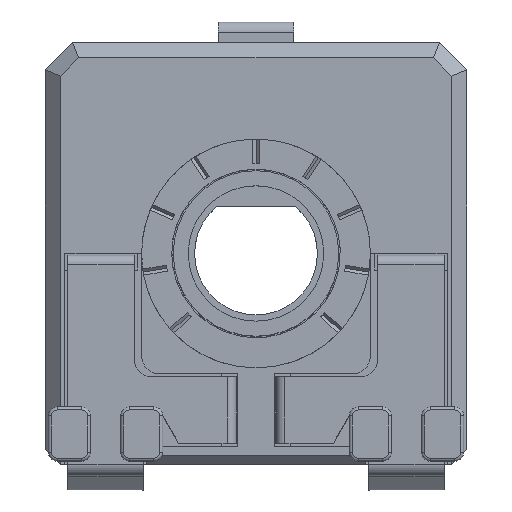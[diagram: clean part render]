
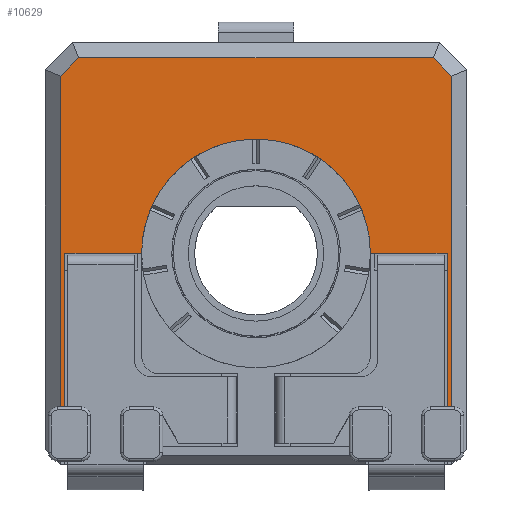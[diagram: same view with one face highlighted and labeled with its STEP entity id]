
A CAD part, top view. The second image highlights one B-rep face of the part: STEP entity #10629.
In plain terms, the highlighted planar face has unit normal (0, 0, 1).
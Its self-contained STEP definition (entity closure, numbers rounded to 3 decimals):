
#465=PLANE('',#11407);
#982=FACE_OUTER_BOUND('',#1545,.T.);
#1545=EDGE_LOOP('',(#9247,#9248,#9249,#9250,#9251,#9252,#9253,#9254,#9255,
#9256,#9257,#9258));
#1880=LINE('',#15060,#3084);
#1948=LINE('',#15313,#3152);
#2185=LINE('',#15948,#3389);
#2188=LINE('',#15953,#3392);
#2460=LINE('',#16605,#3664);
#2493=LINE('',#16732,#3697);
#2715=LINE('',#17278,#3919);
#2716=LINE('',#17281,#3920);
#2717=LINE('',#17282,#3921);
#2718=LINE('',#17285,#3922);
#2719=LINE('',#17286,#3923);
#3084=VECTOR('',#12115,10.);
#3152=VECTOR('',#12397,10.);
#3389=VECTOR('',#12922,10.);
#3392=VECTOR('',#12927,10.);
#3664=VECTOR('',#13349,10.);
#3697=VECTOR('',#13424,10.);
#3919=VECTOR('',#13946,10.);
#3920=VECTOR('',#13949,10.);
#3921=VECTOR('',#13950,10.);
#3922=VECTOR('',#13953,10.);
#3923=VECTOR('',#13954,10.);
#4279=CIRCLE('',#11408,3.8);
#4483=VERTEX_POINT('',#14861);
#4542=VERTEX_POINT('',#15059);
#4619=VERTEX_POINT('',#15310);
#4620=VERTEX_POINT('',#15312);
#4667=VERTEX_POINT('',#15466);
#4668=VERTEX_POINT('',#15468);
#4813=VERTEX_POINT('',#15944);
#4814=VERTEX_POINT('',#15946);
#5023=VERTEX_POINT('',#16601);
#5049=VERTEX_POINT('',#16731);
#5180=VERTEX_POINT('',#17280);
#5181=VERTEX_POINT('',#17284);
#5592=EDGE_CURVE('',#4542,#4483,#1880,.T.);
#5718=EDGE_CURVE('',#4620,#4619,#1948,.T.);
#6008=EDGE_CURVE('',#4814,#4813,#2185,.T.);
#6011=EDGE_CURVE('',#4813,#4619,#2188,.T.);
#6304=EDGE_CURVE('',#4542,#5023,#2460,.T.);
#6349=EDGE_CURVE('',#5023,#5049,#2493,.T.);
#6598=EDGE_CURVE('',#5049,#4814,#2715,.T.);
#6599=EDGE_CURVE('',#4483,#5180,#2716,.T.);
#6600=EDGE_CURVE('',#5180,#4668,#2717,.T.);
#6601=EDGE_CURVE('',#4668,#4667,#4279,.T.);
#6602=EDGE_CURVE('',#4667,#5181,#2718,.T.);
#6603=EDGE_CURVE('',#5181,#4620,#2719,.T.);
#9247=ORIENTED_EDGE('',*,*,#5592,.T.);
#9248=ORIENTED_EDGE('',*,*,#6599,.T.);
#9249=ORIENTED_EDGE('',*,*,#6600,.T.);
#9250=ORIENTED_EDGE('',*,*,#6601,.T.);
#9251=ORIENTED_EDGE('',*,*,#6602,.T.);
#9252=ORIENTED_EDGE('',*,*,#6603,.T.);
#9253=ORIENTED_EDGE('',*,*,#5718,.T.);
#9254=ORIENTED_EDGE('',*,*,#6011,.F.);
#9255=ORIENTED_EDGE('',*,*,#6008,.F.);
#9256=ORIENTED_EDGE('',*,*,#6598,.F.);
#9257=ORIENTED_EDGE('',*,*,#6349,.F.);
#9258=ORIENTED_EDGE('',*,*,#6304,.F.);
#10629=ADVANCED_FACE('',(#982),#465,.T.);
#11407=AXIS2_PLACEMENT_3D('',#17279,#13947,#13948);
#11408=AXIS2_PLACEMENT_3D('',#17283,#13951,#13952);
#12115=DIRECTION('',(1.,0.,0.));
#12397=DIRECTION('',(1.,0.,0.));
#12922=DIRECTION('',(0.707,-0.707,0.));
#12927=DIRECTION('',(0.,-1.,0.));
#13349=DIRECTION('',(0.,1.,0.));
#13424=DIRECTION('',(0.707,0.707,0.));
#13946=DIRECTION('',(1.,0.,0.));
#13947=DIRECTION('center_axis',(0.,0.,1.));
#13948=DIRECTION('ref_axis',(1.,0.,0.));
#13949=DIRECTION('',(0.,1.,0.));
#13950=DIRECTION('',(1.,0.,0.));
#13951=DIRECTION('center_axis',(0.,0.,-1.));
#13952=DIRECTION('ref_axis',(-1.,0.,0.));
#13953=DIRECTION('',(1.,0.,0.));
#13954=DIRECTION('',(0.,-1.,0.));
#14861=CARTESIAN_POINT('',(-13.817,-7.998,4.4));
#15059=CARTESIAN_POINT('',(-13.967,-7.998,4.4));
#15060=CARTESIAN_POINT('',(-10.217,-7.998,4.4));
#15310=CARTESIAN_POINT('',(-0.967,-7.998,4.4));
#15312=CARTESIAN_POINT('',(-1.117,-7.998,4.4));
#15313=CARTESIAN_POINT('',(-4.017,-7.998,4.4));
#15466=CARTESIAN_POINT('',(-3.667,-2.898,4.4));
#15468=CARTESIAN_POINT('',(-11.267,-2.898,4.4));
#15944=CARTESIAN_POINT('',(-0.967,2.994,4.4));
#15946=CARTESIAN_POINT('',(-1.574,3.602,4.4));
#15948=CARTESIAN_POINT('',(-1.271,3.298,4.4));
#15953=CARTESIAN_POINT('',(-0.967,0.602,4.4));
#16601=CARTESIAN_POINT('',(-13.967,2.994,4.4));
#16605=CARTESIAN_POINT('',(-13.967,-6.398,4.4));
#16731=CARTESIAN_POINT('',(-13.36,3.602,4.4));
#16732=CARTESIAN_POINT('',(-13.663,3.298,4.4));
#17278=CARTESIAN_POINT('',(-10.967,3.602,4.4));
#17279=CARTESIAN_POINT('Origin',(-7.467,-2.898,4.4));
#17280=CARTESIAN_POINT('',(-13.817,-2.898,4.4));
#17281=CARTESIAN_POINT('',(-13.817,-3.173,4.4));
#17282=CARTESIAN_POINT('',(-9.442,-2.898,4.4));
#17283=CARTESIAN_POINT('Origin',(-7.467,-2.898,4.4));
#17284=CARTESIAN_POINT('',(-1.117,-2.898,4.4));
#17285=CARTESIAN_POINT('',(-5.492,-2.898,4.4));
#17286=CARTESIAN_POINT('',(-1.117,-2.898,4.4));
